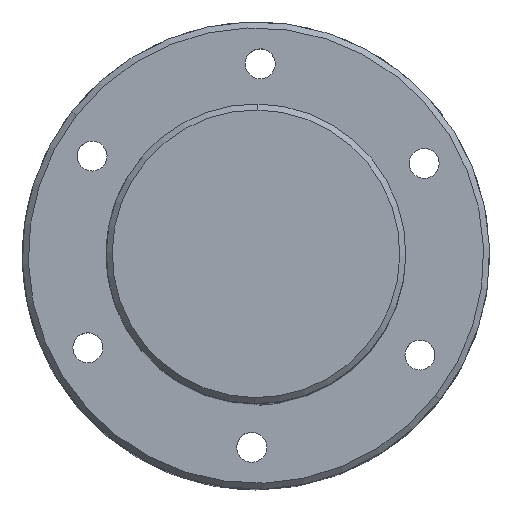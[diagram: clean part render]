
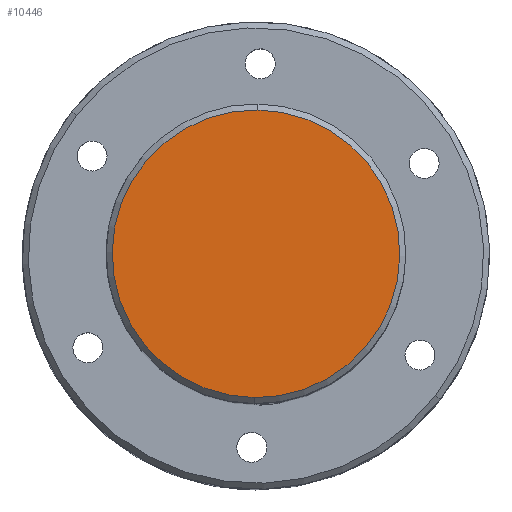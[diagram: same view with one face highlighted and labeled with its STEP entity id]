
A CAD part, top view. The second image highlights one B-rep face of the part: STEP entity #10446.
In plain terms, the highlighted planar face has unit normal (0, 0, 1) as drawn and (-1, 0, 0) by its records, which use the part's own axes.
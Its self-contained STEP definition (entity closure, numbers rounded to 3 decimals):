
#625 = EDGE_CURVE ( 'NONE', #21195, #7215, #21363, .T. ) ;
#1224 = CARTESIAN_POINT ( 'NONE',  ( 0., 0., 0. ) ) ;
#1860 = DIRECTION ( 'NONE',  ( -1., 0., 0. ) ) ;
#1989 = CARTESIAN_POINT ( 'NONE',  ( 0., 0., -24. ) ) ;
#2210 = AXIS2_PLACEMENT_3D ( 'NONE', #1224, #6034, #19500 ) ;
#3015 = CARTESIAN_POINT ( 'NONE',  ( 0., 0., 0. ) ) ;
#3422 = DIRECTION ( 'NONE',  ( 0., 0., -1. ) ) ;
#6034 = DIRECTION ( 'NONE',  ( -1., 0., 0. ) ) ;
#6482 = EDGE_LOOP ( 'NONE', ( #7596, #18368 ) ) ;
#7215 = VERTEX_POINT ( 'NONE', #1989 ) ;
#7596 = ORIENTED_EDGE ( 'NONE', *, *, #7731, .T. ) ;
#7731 = EDGE_CURVE ( 'NONE', #7215, #21195, #12860, .T. ) ;
#8017 = DIRECTION ( 'NONE',  ( 1., 0., 0. ) ) ;
#10446 = ADVANCED_FACE ( 'NONE', ( #21666 ), #19859, .F. ) ;
#12860 = CIRCLE ( 'NONE', #21308, 24. ) ;
#18099 = DIRECTION ( 'NONE',  ( 0., 0., -1. ) ) ;
#18368 = ORIENTED_EDGE ( 'NONE', *, *, #625, .T. ) ;
#18519 = AXIS2_PLACEMENT_3D ( 'NONE', #3015, #8017, #18099 ) ;
#18642 = CARTESIAN_POINT ( 'NONE',  ( 0., 0., 0. ) ) ;
#19078 = CARTESIAN_POINT ( 'NONE',  ( 0., 0., 24. ) ) ;
#19500 = DIRECTION ( 'NONE',  ( 0., 0., -1. ) ) ;
#19859 = PLANE ( 'NONE',  #18519 ) ;
#21195 = VERTEX_POINT ( 'NONE', #19078 ) ;
#21308 = AXIS2_PLACEMENT_3D ( 'NONE', #18642, #1860, #3422 ) ;
#21363 = CIRCLE ( 'NONE', #2210, 24. ) ;
#21666 = FACE_OUTER_BOUND ( 'NONE', #6482, .T. ) ;
